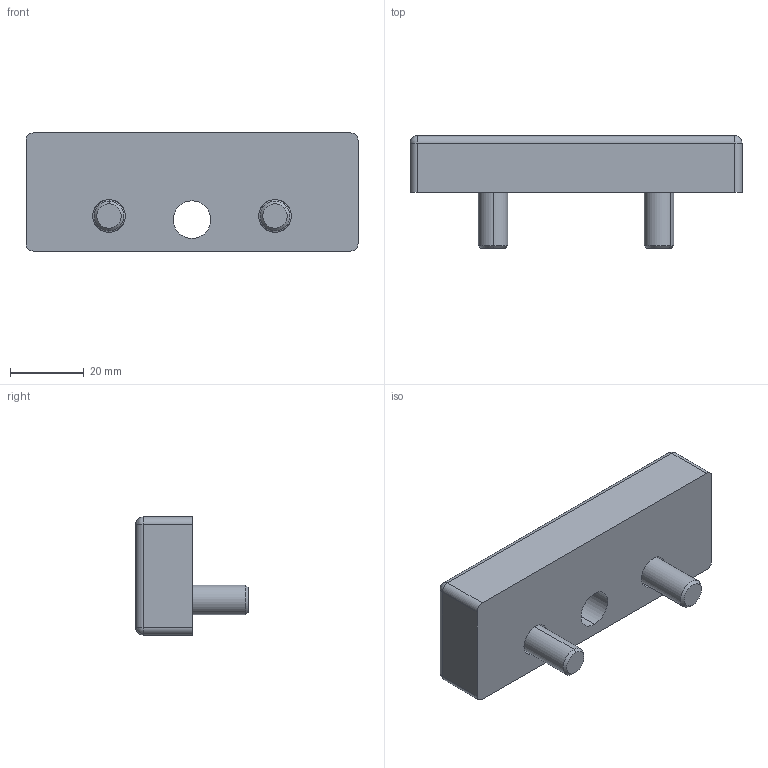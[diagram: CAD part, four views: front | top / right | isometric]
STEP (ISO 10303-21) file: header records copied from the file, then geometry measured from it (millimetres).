
FILE_DESCRIPTION (( 'STEP AP214' ), '1' );
FILE_NAME ('1.5006 Kierrelevy 32x90 M12.STEP', '2025-09-16T07:20:25', ( '' ), ( '' ), 'SwSTEP 2.0', 'SolidWorks 2025', '' );
FILE_SCHEMA (( 'AUTOMOTIVE_DESIGN' ));
Length unit declared in the file: millimetre
Products named in the file (1): 1.5006 Kierrelevy 32x90 M12
Bounding box: 90 x 30.5 x 32 mm (x, y, z)
Volume: 43123.5 mm3; surface area: 12616.5 mm2
Topology: 3 solids, 3 shells, 86 faces, 190 edges, 108 vertices
Faces by surface type: plane 38, cylinder 26, cone 10, torus 8, sphere 4
Entity records: 3291 total; most frequent: DIRECTION 442, CARTESIAN_POINT 377, ORIENTED_EDGE 364, EDGE_CURVE 182, AXIS2_PLACEMENT_3D 173, VERTEX_POINT 108, EDGE_LOOP 98, LINE 96
